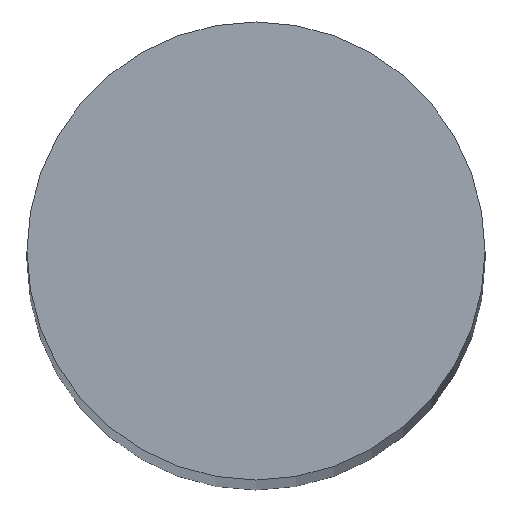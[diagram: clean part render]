
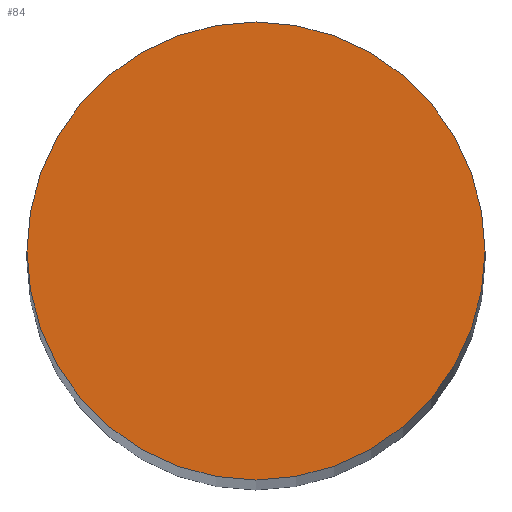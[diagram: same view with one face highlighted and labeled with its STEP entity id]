
A CAD part, top view. The second image highlights one B-rep face of the part: STEP entity #84.
In plain terms, the highlighted planar face has unit normal (0, 0, 1).
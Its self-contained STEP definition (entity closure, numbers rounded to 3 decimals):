
#22 = CARTESIAN_POINT ( 'NONE',  ( 0., 0., 200. ) ) ;
#84 = ADVANCED_FACE ( 'NONE', ( #282 ), #308, .T. ) ;
#90 = EDGE_CURVE ( 'NONE', #319, #319, #298, .T. ) ;
#101 = DIRECTION ( 'NONE',  ( 0., 0., 1. ) ) ;
#116 = AXIS2_PLACEMENT_3D ( 'NONE', #228, #335, #173 ) ;
#135 = CARTESIAN_POINT ( 'NONE',  ( 8., 0., 200. ) ) ;
#166 = EDGE_LOOP ( 'NONE', ( #276 ) ) ;
#173 = DIRECTION ( 'NONE',  ( 1., 0., 0. ) ) ;
#228 = CARTESIAN_POINT ( 'NONE',  ( 0., 0., 200. ) ) ;
#237 = AXIS2_PLACEMENT_3D ( 'NONE', #22, #101, #311 ) ;
#276 = ORIENTED_EDGE ( 'NONE', *, *, #90, .T. ) ;
#282 = FACE_OUTER_BOUND ( 'NONE', #166, .T. ) ;
#298 = CIRCLE ( 'NONE', #237, 8. ) ;
#308 = PLANE ( 'NONE',  #116 ) ;
#311 = DIRECTION ( 'NONE',  ( 1., 0., 0. ) ) ;
#319 = VERTEX_POINT ( 'NONE', #135 ) ;
#335 = DIRECTION ( 'NONE',  ( 0., 0., 1. ) ) ;
